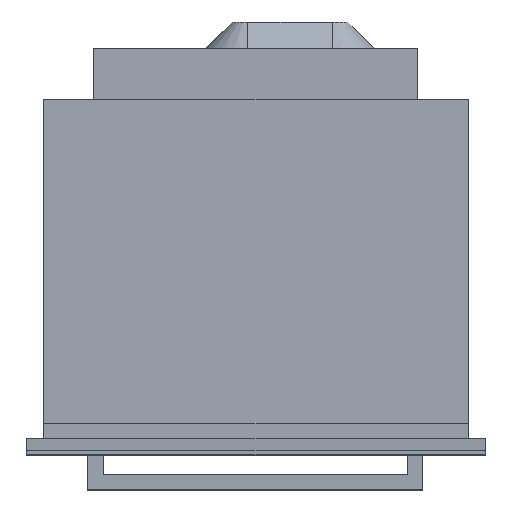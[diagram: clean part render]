
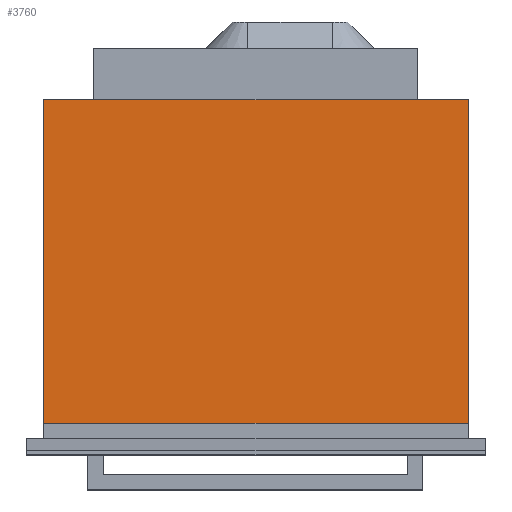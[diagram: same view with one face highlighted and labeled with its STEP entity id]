
A CAD part, top view. The second image highlights one B-rep face of the part: STEP entity #3760.
In plain terms, the highlighted planar face has unit normal (0, 0, 1).
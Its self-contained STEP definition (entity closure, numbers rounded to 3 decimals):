
#852=ORIENTED_EDGE('',*,*,#1283,.F.);
#853=ORIENTED_EDGE('',*,*,#1287,.T.);
#854=ORIENTED_EDGE('',*,*,#1288,.T.);
#855=ORIENTED_EDGE('',*,*,#1289,.F.);
#1283=EDGE_CURVE('',#1557,#1554,#1819,.T.);
#1287=EDGE_CURVE('',#1557,#1559,#1823,.T.);
#1288=EDGE_CURVE('',#1559,#1560,#1824,.T.);
#1289=EDGE_CURVE('',#1554,#1560,#1825,.T.);
#1554=VERTEX_POINT('',#7110);
#1557=VERTEX_POINT('',#7115);
#1559=VERTEX_POINT('',#7125);
#1560=VERTEX_POINT('',#7127);
#1819=LINE('',#7116,#2091);
#1823=LINE('',#7124,#2095);
#1824=LINE('',#7126,#2096);
#1825=LINE('',#7128,#2097);
#2091=VECTOR('',#4448,1000.);
#2095=VECTOR('',#4458,1000.);
#2096=VECTOR('',#4459,1000.);
#2097=VECTOR('',#4460,1000.);
#2279=EDGE_LOOP('',(#852,#853,#854,#855));
#2454=FACE_BOUND('',#2279,.T.);
#2558=PLANE('',#3918);
#3760=ADVANCED_FACE('',(#2454),#2558,.T.);
#3918=AXIS2_PLACEMENT_3D('',#7123,#4456,#4457);
#4448=DIRECTION('',(1.,0.,0.));
#4456=DIRECTION('',(0.,0.,1.));
#4457=DIRECTION('',(0.,-1.,0.));
#4458=DIRECTION('',(0.,-1.,0.));
#4459=DIRECTION('',(1.,0.,0.));
#4460=DIRECTION('',(0.,-1.,0.));
#7110=CARTESIAN_POINT('',(276.55,363.594,208.852));
#7115=CARTESIAN_POINT('',(-275.05,363.594,208.852));
#7116=CARTESIAN_POINT('',(0.75,363.594,208.852));
#7123=CARTESIAN_POINT('',(0.75,363.594,208.852));
#7124=CARTESIAN_POINT('',(-275.05,153.644,208.852));
#7125=CARTESIAN_POINT('',(-275.05,-56.306,208.852));
#7126=CARTESIAN_POINT('',(0.75,-56.306,208.852));
#7127=CARTESIAN_POINT('',(276.55,-56.306,208.852));
#7128=CARTESIAN_POINT('',(276.55,153.644,208.852));
